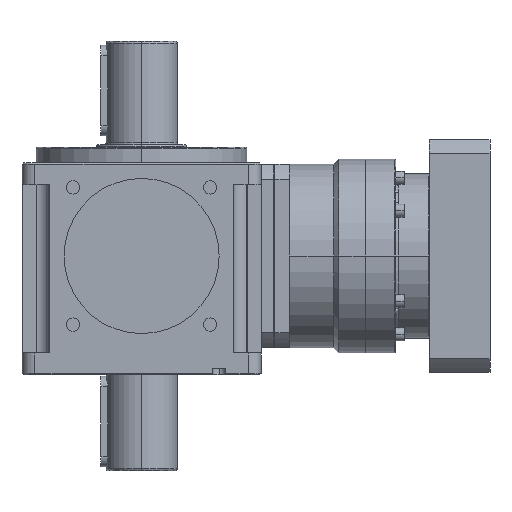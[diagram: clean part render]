
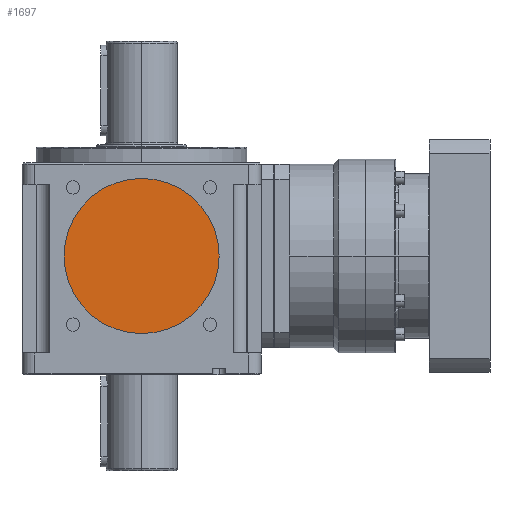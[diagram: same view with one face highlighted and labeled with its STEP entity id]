
A CAD part, left-side view. The second image highlights one B-rep face of the part: STEP entity #1697.
In plain terms, the highlighted planar face has unit normal (-1, 0, 0).
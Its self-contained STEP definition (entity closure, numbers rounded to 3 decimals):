
#344 = EDGE_LOOP ( 'NONE', ( #5839, #3583 ) ) ;
#485 = DIRECTION ( 'NONE',  ( 0., 0., -1. ) ) ;
#1697 = ADVANCED_FACE ( 'NONE', ( #3363 ), #14543, .T. ) ;
#3363 = FACE_OUTER_BOUND ( 'NONE', #344, .T. ) ;
#3462 = CIRCLE ( 'NONE', #11186, 60. ) ;
#3583 = ORIENTED_EDGE ( 'NONE', *, *, #15100, .T. ) ;
#4699 = DIRECTION ( 'NONE',  ( 0., 0., -1. ) ) ;
#5421 = DIRECTION ( 'NONE',  ( -1., 0., 0. ) ) ;
#5839 = ORIENTED_EDGE ( 'NONE', *, *, #8822, .T. ) ;
#5844 = CARTESIAN_POINT ( 'NONE',  ( -87.5, 0., 0. ) ) ;
#6631 = CARTESIAN_POINT ( 'NONE',  ( -87.5, 0., 60. ) ) ;
#7203 = CARTESIAN_POINT ( 'NONE',  ( -87.5, 0., 0. ) ) ;
#7583 = CIRCLE ( 'NONE', #12101, 60. ) ;
#8362 = DIRECTION ( 'NONE',  ( -1., 0., 0. ) ) ;
#8822 = EDGE_CURVE ( 'NONE', #15368, #12591, #7583, .T. ) ;
#9307 = DIRECTION ( 'NONE',  ( 0., 0., -1. ) ) ;
#9641 = AXIS2_PLACEMENT_3D ( 'NONE', #7203, #11043, #4699 ) ;
#11043 = DIRECTION ( 'NONE',  ( -1., 0., 0. ) ) ;
#11186 = AXIS2_PLACEMENT_3D ( 'NONE', #11914, #5421, #485 ) ;
#11914 = CARTESIAN_POINT ( 'NONE',  ( -87.5, 0., 0. ) ) ;
#12101 = AXIS2_PLACEMENT_3D ( 'NONE', #5844, #8362, #9307 ) ;
#12591 = VERTEX_POINT ( 'NONE', #14537 ) ;
#14537 = CARTESIAN_POINT ( 'NONE',  ( -87.5, 0., -60. ) ) ;
#14543 = PLANE ( 'NONE',  #9641 ) ;
#15100 = EDGE_CURVE ( 'NONE', #12591, #15368, #3462, .T. ) ;
#15368 = VERTEX_POINT ( 'NONE', #6631 ) ;
